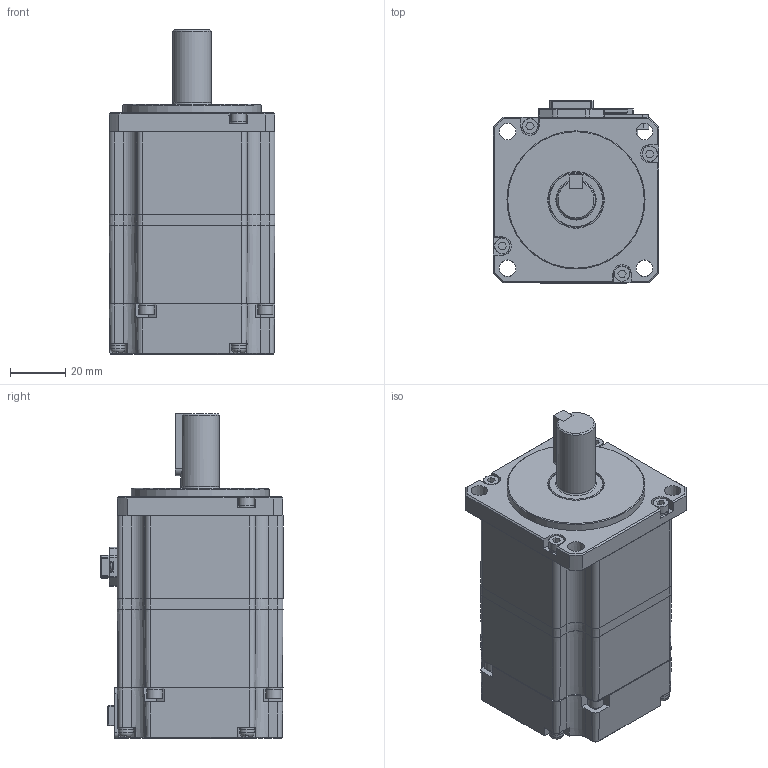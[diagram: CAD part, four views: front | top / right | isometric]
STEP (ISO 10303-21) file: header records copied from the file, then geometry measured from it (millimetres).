
FILE_DESCRIPTION (( 'STEP AP214' ), '1' );
FILE_NAME ('EM06GA002G01_Out Line(APM-EB01AM3K2).STEP', '2022-11-03T08:09:26', ( '' ), ( '' ), 'SwSTEP 2.0', 'SolidWorks 2021', '' );
FILE_SCHEMA (( 'AUTOMOTIVE_DESIGN' ));
Length unit declared in the file: millimetre
Products named in the file (1): EM06GA002G01_Out Line(APM-EB01AM3K2)
Bounding box: 60 x 65.9 x 117.5 mm (x, y, z)
Volume: 290496.5 mm3; surface area: 67341.7 mm2
Topology: 35 solids, 35 shells, 1566 faces, 3934 edges, 2505 vertices
Faces by surface type: plane 1125, cylinder 239, cone 139, torus 31, bspline 18, sphere 14
Full cylindrical faces by diameter (mm): 1.6 x10, 2 x2, 2.1 x2, 2.5 x16, 3 x16, 3.1 x8, 3.5 x4, 5.4 x8, 5.5 x8, 5.6 x8, 14 x1, 19.8 x1, 20.5 x1, 50 x1
Entity records: 63641 total; most frequent: CARTESIAN_POINT 9449, ORIENTED_EDGE 7480, DIRECTION 7243, EDGE_CURVE 3740, VECTOR 2773, LINE 2773, VERTEX_POINT 2454, AXIS2_PLACEMENT_3D 2235
